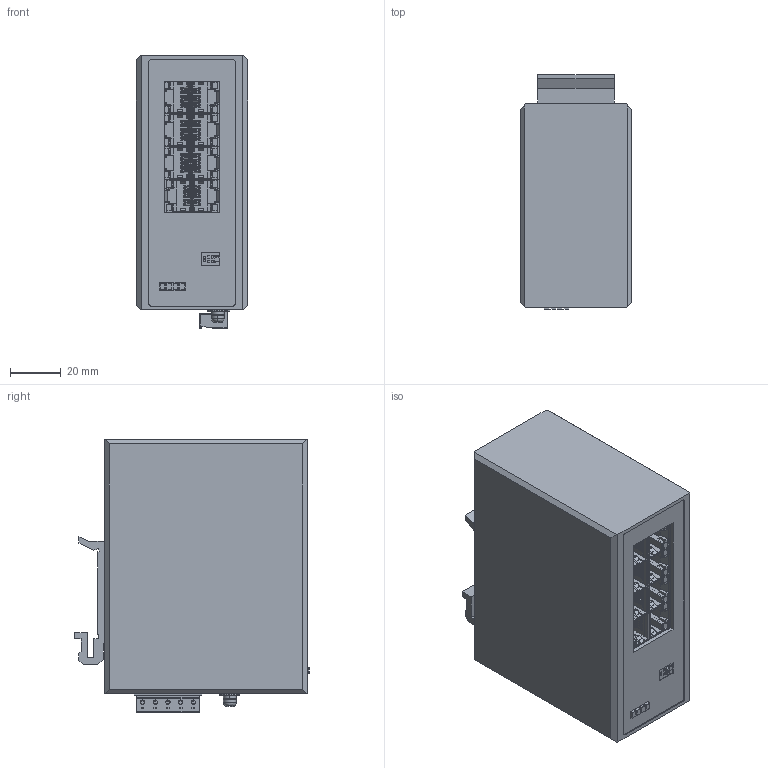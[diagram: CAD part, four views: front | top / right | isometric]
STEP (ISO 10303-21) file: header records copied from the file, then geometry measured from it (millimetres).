
FILE_DESCRIPTION((''),'2;1');
FILE_NAME('ASM0001_ASM_ASM','2025-07-31T15:50:51',('admin'),(''),'CREO PARAMETRIC BY PTC INC, 2021023','CREO PARAMETRIC BY PTC INC, 2021023','');
FILE_SCHEMA(('CONFIG_CONTROL_DESIGN'));
Products named in the file (15): 308_A_1; 000_2; PRT0001_1; PRT0002_1; PRT0003_1; PRT0004_AF0_1; PRT0005_1; PRT0006_1; PRT0007_1; 20001_2; PRT0008_1; ASM0001_ASM_1_ASM; 00; ASM0001_ASM_ASM
Assembly tree (14 placements, depth 3):
  ASM0001_ASM_ASM
    ASM0001_ASM_1_ASM
      308_A_1
      000_2
      PRT0001_1
      PRT0002_1
      PRT0003_1
      PRT0004_AF0_1
      PRT0005_1
      PRT0006_1
      PRT0007_1
      20001_2
      PRT0008_1
    00
    00
Bounding box: 44 x 92.32 x 107.18 mm (x, y, z)
Volume: 72156.3 mm3; surface area: 85024 mm2
Topology: 13 solids, 29 shells, 3664 faces, 10845 edges, 7078 vertices
Faces by surface type: plane 2582, cylinder 800, torus 140, cone 64, bspline 32, extrusion 26, sphere 20
Entity records: 127192 total; most frequent: CARTESIAN_POINT 29636, ORIENTED_EDGE 21626, DIRECTION 18463, EDGE_CURVE 10813, VECTOR 8143, LINE 8117, VERTEX_POINT 7078, AXIS2_PLACEMENT_3D 5160
